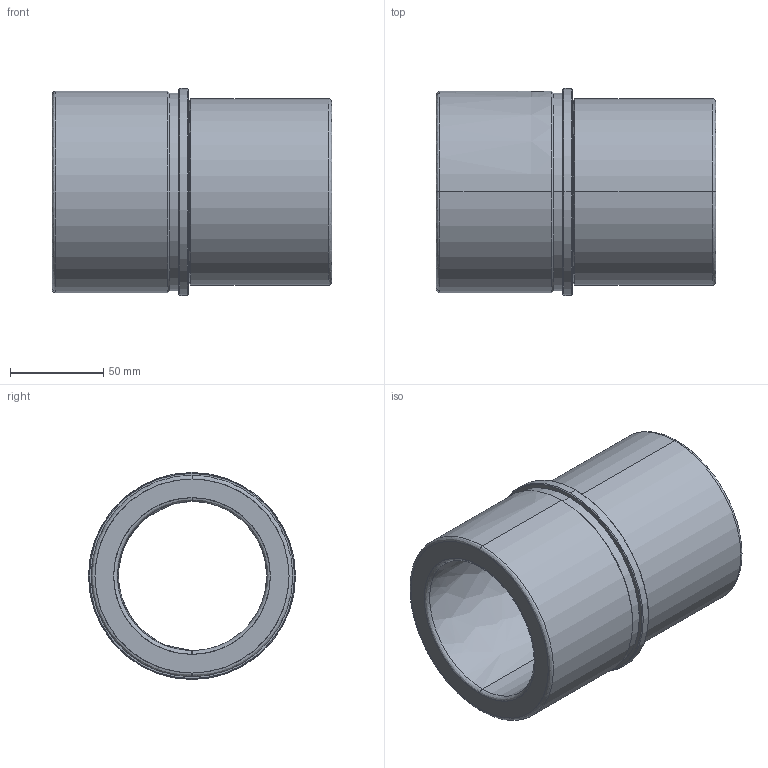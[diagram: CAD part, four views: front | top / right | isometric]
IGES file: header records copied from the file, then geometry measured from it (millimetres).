
Start section: START RECORD GO HERE.
Global section: file name: FAMO-SF1-D80 x 150.igs; native system: DASSAULT SYSTEMES CATIA V5 R20 - www.3ds.com; preprocessor: CATIA Version 5 Release 20 ; author: Utente; organization: NB04-ASUS; date: 20210106.174423; units: millimetre
Bounding box: 150 x 111 x 111 mm (x, y, z)
Surface area: 96382.3 mm2 (no closed solid volume)
Topology: 0 solids, 0 shells, 37 faces, 250 edges, 250 vertices
Faces by surface type: revolution 32, plane 5
